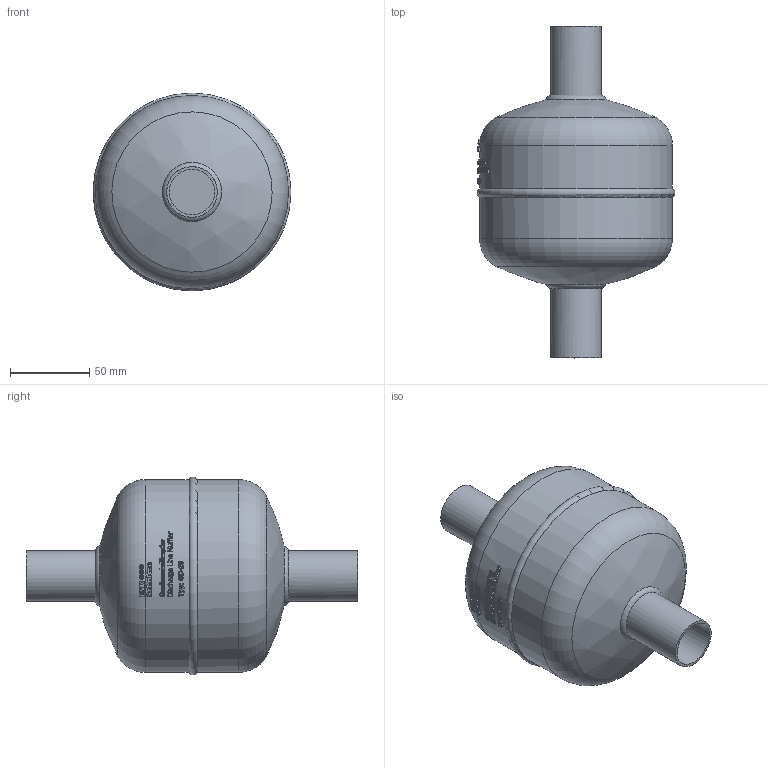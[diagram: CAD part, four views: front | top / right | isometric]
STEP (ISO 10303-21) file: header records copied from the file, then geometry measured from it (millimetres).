
FILE_DESCRIPTION(/* description */ (''),/* implementation_level */ '2;1');
FILE_NAME(/* name */ 'P:\GD\GD-28\GD-28.stp',/* time_stamp */ '2017-10-05T08:26:48+02:00',/* author */ ('neufeld'),/* organization */ (''),/* preprocessor_version */ 'ST-DEVELOPER v16.1',/* originating_system */ 'Autodesk Inventor 2016',/* authorisation */ '');
FILE_SCHEMA (('AUTOMOTIVE_DESIGN { 1 0 10303 214 3 1 1 }'));
Length unit declared in the file: millimetre
Products named in the file (2): GD-28; GD-28_1
Assembly tree (1 placements, depth 2):
  GD-28_1
    GD-28
Bounding box: 125.11 x 209.83 x 125.11 mm (x, y, z)
Volume: 1215632.8 mm3; surface area: 69485.7 mm2
Topology: 1 solids, 1 shells, 1051 faces, 2902 edges, 1934 vertices
Faces by surface type: plane 565, bspline 387, cylinder 85, torus 12, sphere 2
Full cylindrical faces by diameter (mm): 28.7 x2, 32 x2, 122 x2
Entity records: 41204 total; most frequent: CARTESIAN_POINT 17609, ORIENTED_EDGE 5720, DIRECTION 3454, EDGE_CURVE 2860, VERTEX_POINT 1912, LINE 1280, VECTOR 1280, B_SPLINE_CURVE_WITH_KNOTS 1156
